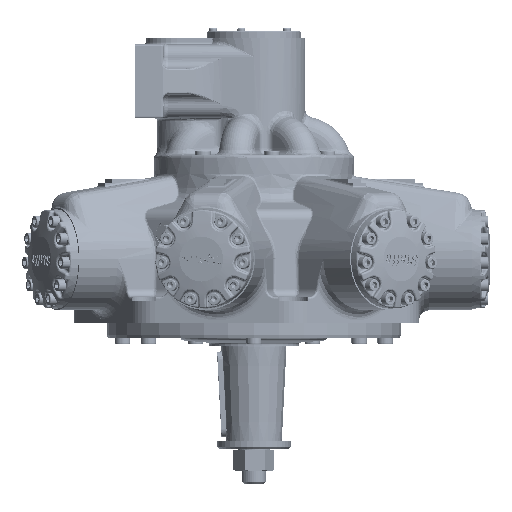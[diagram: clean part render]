
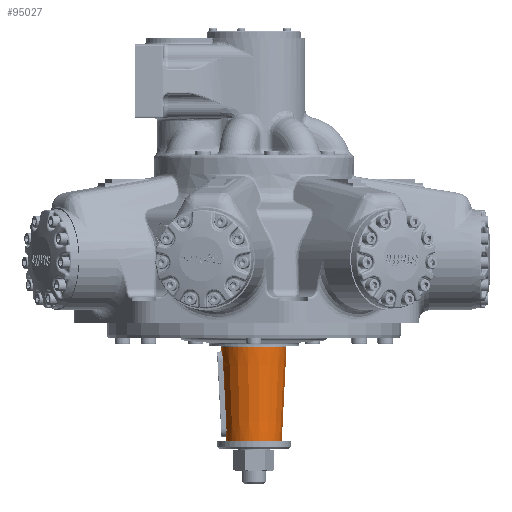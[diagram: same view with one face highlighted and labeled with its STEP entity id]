
A CAD part, left-side view. The second image highlights one B-rep face of the part: STEP entity #95027.
In plain terms, the highlighted conical face has half-angle 2.862 degrees and reference radius 47.13 mm.
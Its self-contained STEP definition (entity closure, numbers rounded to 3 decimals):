
#27=(
BOUNDED_CURVE()
B_SPLINE_CURVE(2,(#140882,#140883,#140884),.UNSPECIFIED.,.F.,.F.)
B_SPLINE_CURVE_WITH_KNOTS((3,3),(0.045,10.799),
 .UNSPECIFIED.)
CURVE()
GEOMETRIC_REPRESENTATION_ITEM()
RATIONAL_B_SPLINE_CURVE((1.,1.002,1.))
REPRESENTATION_ITEM('')
);
#28=(
BOUNDED_CURVE()
B_SPLINE_CURVE(2,(#140910,#140911,#140912),.UNSPECIFIED.,.F.,.F.)
B_SPLINE_CURVE_WITH_KNOTS((3,3),(0.042,10.796),
 .UNSPECIFIED.)
CURVE()
GEOMETRIC_REPRESENTATION_ITEM()
RATIONAL_B_SPLINE_CURVE((1.,1.002,1.))
REPRESENTATION_ITEM('')
);
#1946=CONICAL_SURFACE('',#101325,47.13,0.05);
#2106=FACE_BOUND('',#20533,.T.);
#4209=LINE('',#140874,#8654);
#8654=VECTOR('',#110068,47.13);
#14495=FACE_OUTER_BOUND('',#20532,.T.);
#20532=EDGE_LOOP('',(#59508,#59509,#59510,#59511));
#20533=EDGE_LOOP('',(#59512,#59513,#59514,#59515,#59516,#59517));
#26828=CIRCLE('',#101315,43.472);
#26833=CIRCLE('',#101326,50.787);
#30412=B_SPLINE_CURVE_WITH_KNOTS('',3,(#140844,#140845,#140846,#140847,
#140848,#140849,#140850,#140851,#140852,#140853,#140854,#140855,#140856,
#140857,#140858,#140859,#140860,#140861),.UNSPECIFIED.,.F.,.F.,(4,2,2,2,
2,2,2,2,4),(0.069,0.484,0.968,1.453,
1.937,2.421,2.905,3.389,3.805),
 .UNSPECIFIED.);
#30414=B_SPLINE_CURVE_WITH_KNOTS('',3,(#140877,#140878,#140879,#140880),
 .UNSPECIFIED.,.F.,.F.,(4,4),(-3.865,-3.77),
 .UNSPECIFIED.);
#30415=B_SPLINE_CURVE_WITH_KNOTS('',3,(#140886,#140887,#140888,#140889,
#140890,#140891,#140892,#140893,#140894,#140895,#140896,#140897,#140898,
#140899,#140900,#140901,#140902,#140903,#140904,#140905,#140906,#140907,
#140908),.UNSPECIFIED.,.F.,.F.,(4,3,2,2,2,2,2,2,2,2,4),(-0.018,
0.,0.477,0.955,1.432,1.909,
2.386,2.863,3.341,3.818,3.837),
 .UNSPECIFIED.);
#30416=B_SPLINE_CURVE_WITH_KNOTS('',3,(#140913,#140914,#140915,#140916),
 .UNSPECIFIED.,.F.,.F.,(4,4),(-0.111,-0.016),
 .UNSPECIFIED.);
#35549=VERTEX_POINT('',#140809);
#35559=VERTEX_POINT('',#140841);
#35560=VERTEX_POINT('',#140843);
#35564=VERTEX_POINT('',#140873);
#35565=VERTEX_POINT('',#140876);
#35566=VERTEX_POINT('',#140881);
#35567=VERTEX_POINT('',#140885);
#35568=VERTEX_POINT('',#140909);
#44422=EDGE_CURVE('',#35549,#35549,#26828,.T.);
#44435=EDGE_CURVE('',#35560,#35559,#30412,.T.);
#44440=EDGE_CURVE('',#35549,#35564,#4209,.T.);
#44441=EDGE_CURVE('',#35564,#35564,#26833,.T.);
#44442=EDGE_CURVE('',#35565,#35559,#30414,.T.);
#44443=EDGE_CURVE('',#35566,#35565,#27,.T.);
#44444=EDGE_CURVE('',#35567,#35566,#30415,.T.);
#44445=EDGE_CURVE('',#35568,#35567,#28,.T.);
#44446=EDGE_CURVE('',#35560,#35568,#30416,.T.);
#59508=ORIENTED_EDGE('',*,*,#44422,.F.);
#59509=ORIENTED_EDGE('',*,*,#44440,.T.);
#59510=ORIENTED_EDGE('',*,*,#44441,.T.);
#59511=ORIENTED_EDGE('',*,*,#44440,.F.);
#59512=ORIENTED_EDGE('',*,*,#44442,.F.);
#59513=ORIENTED_EDGE('',*,*,#44443,.F.);
#59514=ORIENTED_EDGE('',*,*,#44444,.F.);
#59515=ORIENTED_EDGE('',*,*,#44445,.F.);
#59516=ORIENTED_EDGE('',*,*,#44446,.F.);
#59517=ORIENTED_EDGE('',*,*,#44435,.T.);
#95027=ADVANCED_FACE('',(#14495,#2106),#1946,.T.);
#101315=AXIS2_PLACEMENT_3D('',#140810,#110037,#110038);
#101325=AXIS2_PLACEMENT_3D('',#140872,#110066,#110067);
#101326=AXIS2_PLACEMENT_3D('',#140875,#110069,#110070);
#110037=DIRECTION('center_axis',(0.,0.,
-1.));
#110038=DIRECTION('ref_axis',(-1.,0.,0.));
#110066=DIRECTION('center_axis',(0.,0.,
1.));
#110067=DIRECTION('ref_axis',(0.,1.,0.));
#110068=DIRECTION('',(0.,-0.05,0.999));
#110069=DIRECTION('center_axis',(0.,0.,
-1.));
#110070=DIRECTION('ref_axis',(-1.,0.,0.));
#140809=CARTESIAN_POINT('',(0.,-43.472,-176.351));
#140810=CARTESIAN_POINT('Origin',(0.,0.,
-176.351));
#140841=CARTESIAN_POINT('',(-12.676,48.207,-48.88));
#140843=CARTESIAN_POINT('',(12.676,48.207,-48.88));
#140844=CARTESIAN_POINT('Ctrl Pts',(12.676,48.207,-48.88));
#140845=CARTESIAN_POINT('Ctrl Pts',(12.617,48.295,-47.476));
#140846=CARTESIAN_POINT('Ctrl Pts',(12.311,48.452,-46.023));
#140847=CARTESIAN_POINT('Ctrl Pts',(11.125,48.889,-43.106));
#140848=CARTESIAN_POINT('Ctrl Pts',(10.153,49.182,-41.677));
#140849=CARTESIAN_POINT('Ctrl Pts',(7.903,49.707,-39.423));
#140850=CARTESIAN_POINT('Ctrl Pts',(6.474,49.975,-38.446));
#140851=CARTESIAN_POINT('Ctrl Pts',(3.33,50.347,-37.146));
#140852=CARTESIAN_POINT('Ctrl Pts',(1.614,50.448,-36.824));
#140853=CARTESIAN_POINT('Ctrl Pts',(-1.614,50.448,-36.824));
#140854=CARTESIAN_POINT('Ctrl Pts',(-3.33,50.347,-37.146));
#140855=CARTESIAN_POINT('Ctrl Pts',(-6.474,49.975,
-38.446));
#140856=CARTESIAN_POINT('Ctrl Pts',(-7.903,49.707,
-39.423));
#140857=CARTESIAN_POINT('Ctrl Pts',(-10.153,49.182,-41.677));
#140858=CARTESIAN_POINT('Ctrl Pts',(-11.125,48.889,
-43.106));
#140859=CARTESIAN_POINT('Ctrl Pts',(-12.311,48.452,
-46.023));
#140860=CARTESIAN_POINT('Ctrl Pts',(-12.617,48.295,
-47.476));
#140861=CARTESIAN_POINT('Ctrl Pts',(-12.676,48.207,
-48.88));
#140872=CARTESIAN_POINT('Origin',(0.,0.,
-103.199));
#140873=CARTESIAN_POINT('',(0.,-50.787,-30.047));
#140874=CARTESIAN_POINT('',(0.,-47.13,-103.199));
#140875=CARTESIAN_POINT('Origin',(0.,0.,
-30.047));
#140876=CARTESIAN_POINT('',(-12.713,48.148,-49.841));
#140877=CARTESIAN_POINT('Ctrl Pts',(-12.713,48.148,
-49.841));
#140878=CARTESIAN_POINT('Ctrl Pts',(-12.713,48.164,
-49.524));
#140879=CARTESIAN_POINT('Ctrl Pts',(-12.701,48.184,
-49.202));
#140880=CARTESIAN_POINT('Ctrl Pts',(-12.676,48.207,
-48.88));
#140881=CARTESIAN_POINT('',(-12.713,42.57,-157.24));
#140882=CARTESIAN_POINT('Ctrl Pts',(-12.713,42.57,
-157.24));
#140883=CARTESIAN_POINT('Ctrl Pts',(-12.713,45.2,
-106.842));
#140884=CARTESIAN_POINT('Ctrl Pts',(-12.713,48.148,
-49.841));
#140885=CARTESIAN_POINT('',(12.713,42.57,-157.24));
#140886=CARTESIAN_POINT('Ctrl Pts',(12.713,42.57,-157.24));
#140887=CARTESIAN_POINT('Ctrl Pts',(12.713,42.567,-157.3));
#140888=CARTESIAN_POINT('Ctrl Pts',(12.712,42.564,-157.361));
#140889=CARTESIAN_POINT('Ctrl Pts',(12.711,42.561,-157.421));
#140890=CARTESIAN_POINT('Ctrl Pts',(12.689,42.485,-159.011));
#140891=CARTESIAN_POINT('Ctrl Pts',(12.348,42.502,-160.701));
#140892=CARTESIAN_POINT('Ctrl Pts',(11.025,42.704,-163.804));
#140893=CARTESIAN_POINT('Ctrl Pts',(10.045,42.883,-165.216));
#140894=CARTESIAN_POINT('Ctrl Pts',(7.803,43.233,-167.447));
#140895=CARTESIAN_POINT('Ctrl Pts',(6.388,43.429,-168.419));
#140896=CARTESIAN_POINT('Ctrl Pts',(3.282,43.709,-169.713));
#140897=CARTESIAN_POINT('Ctrl Pts',(1.59,43.788,-170.034));
#140898=CARTESIAN_POINT('Ctrl Pts',(-1.59,43.788,-170.034));
#140899=CARTESIAN_POINT('Ctrl Pts',(-3.282,43.709,
-169.713));
#140900=CARTESIAN_POINT('Ctrl Pts',(-6.388,43.429,
-168.419));
#140901=CARTESIAN_POINT('Ctrl Pts',(-7.803,43.233,-167.447));
#140902=CARTESIAN_POINT('Ctrl Pts',(-10.045,42.883,
-165.216));
#140903=CARTESIAN_POINT('Ctrl Pts',(-11.025,42.704,
-163.804));
#140904=CARTESIAN_POINT('Ctrl Pts',(-12.348,42.502,
-160.701));
#140905=CARTESIAN_POINT('Ctrl Pts',(-12.689,42.485,
-159.011));
#140906=CARTESIAN_POINT('Ctrl Pts',(-12.712,42.564,-157.361));
#140907=CARTESIAN_POINT('Ctrl Pts',(-12.713,42.567,
-157.3));
#140908=CARTESIAN_POINT('Ctrl Pts',(-12.713,42.57,
-157.24));
#140909=CARTESIAN_POINT('',(12.713,48.148,-49.841));
#140910=CARTESIAN_POINT('Ctrl Pts',(12.713,48.148,-49.841));
#140911=CARTESIAN_POINT('Ctrl Pts',(12.713,45.2,-106.842));
#140912=CARTESIAN_POINT('Ctrl Pts',(12.713,42.57,-157.24));
#140913=CARTESIAN_POINT('Ctrl Pts',(12.676,48.207,-48.88));
#140914=CARTESIAN_POINT('Ctrl Pts',(12.701,48.184,-49.202));
#140915=CARTESIAN_POINT('Ctrl Pts',(12.713,48.164,-49.524));
#140916=CARTESIAN_POINT('Ctrl Pts',(12.713,48.148,-49.841));
